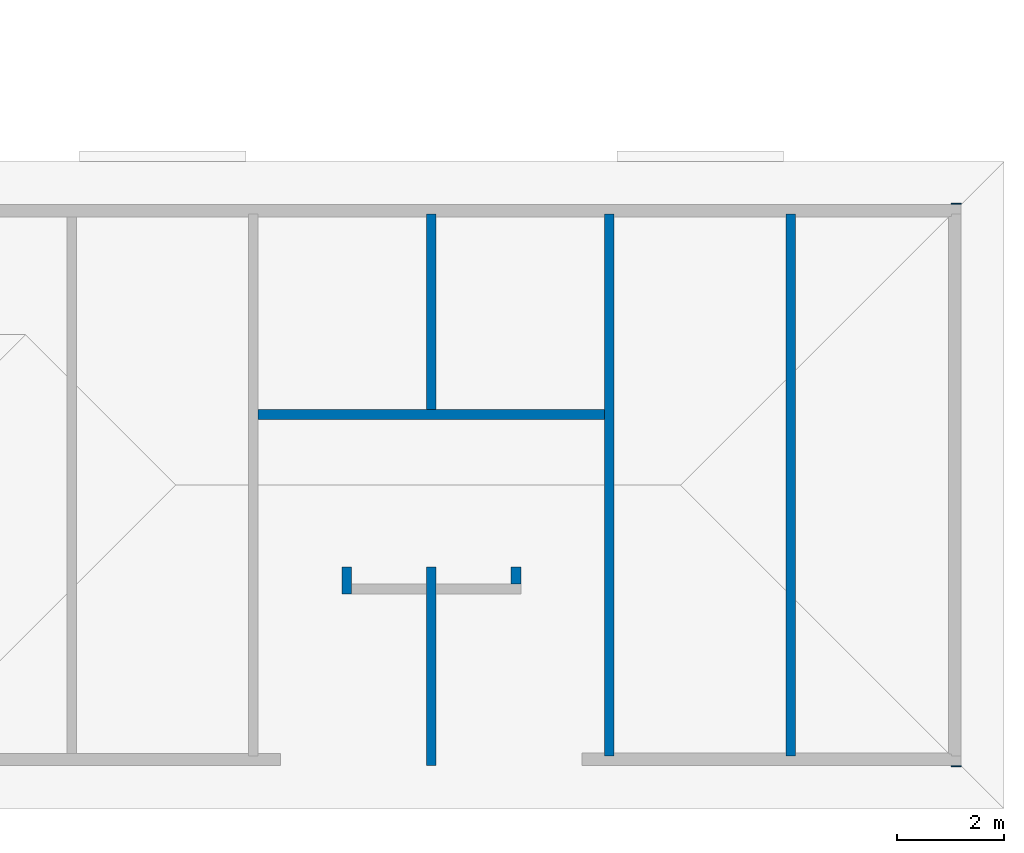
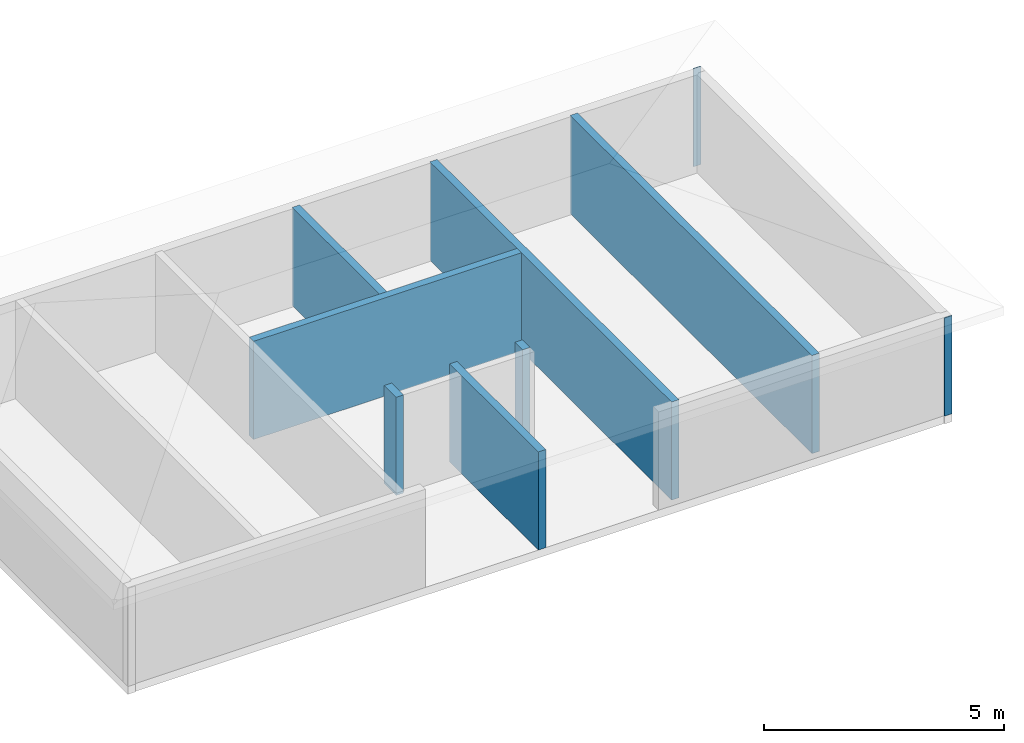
# One storey, part 5 of 10: 9 walls.
"""IFC2X3 building model written with IfcOpenShell, lengths in metres."""

from ifc_helpers import new_model, si_unit, frame, frame_2d, origin, origin_with_axes, place, context, project, spatial, rectangle, extrude, element, save


model = new_model("IFC2X3")

# Units and contexts
model_context = context("Model", 3, precision=1e-06, world=origin())
ifc_project = project(units=[si_unit("LENGTHUNIT", "METRE"), si_unit("PLANEANGLEUNIT", "RADIAN")], contexts=[model_context])

# Site, building, storey
site = spatial("IfcSite", under=ifc_project, CompositionType="ELEMENT")
building = spatial("IfcBuilding", under=site, CompositionType="ELEMENT")
storey = spatial("IfcBuildingStorey", under=building, Name="r+3", CompositionType="ELEMENT", Elevation=8.1)

# Walls
placement = place(None, origin())
wall_1_placement = place(placement, frame((53.08999993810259, -5.399922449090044, 8.1), z_axis=(0.0, 0.0, 1.0), x_axis=(0.0, 1.0, 0.0)))
element("IfcWall", 1, at=wall_1_placement, inside=storey, context=model_context, shape_type="SweptSolid", body=[
    extrude(rectangle(XDim=10.090000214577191, YDim=0.18, at=frame_2d((5.045000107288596, 0.09), x_axis=(1.0, 0.0)), kind="CURVE"), origin_with_axes(), (0.0, 0.0, 1.0), 2.5),
])
wall_2_placement = place(placement, frame((49.77499999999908, 1.050077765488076, 8.1), z_axis=(0.0, 0.0, 1.0), x_axis=(0.0, 1.0, 0.0)))
element("IfcWall", 2, at=wall_2_placement, inside=storey, context=model_context, shape_type="SweptSolid", body=[
    extrude(rectangle(XDim=3.639999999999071, YDim=0.18, at=frame_2d((1.819999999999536, 0.09), x_axis=(1.0, 0.0)), kind="CURVE"), origin_with_axes(), (0.0, 0.0, 1.0), 2.5),
])
wall_3_placement = place(placement, frame((56.469999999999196, -5.399922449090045, 8.1), z_axis=(0.0, 0.0, 1.0), x_axis=(0.0, 1.0, 0.0)))
element("IfcWall", 3, at=wall_3_placement, inside=storey, context=model_context, shape_type="SweptSolid", body=[
    extrude(rectangle(XDim=10.090000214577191, YDim=0.18, at=frame_2d((5.045000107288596, 0.09), x_axis=(1.0, 0.0)), kind="CURVE"), origin_with_axes(), (0.0, 0.0, 1.0), 2.5),
])
wall_4_placement = place(placement, frame((51.169999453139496, -1.879922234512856, 8.1), z_axis=(0.0, 0.0, 1.0), x_axis=(0.0, -1.0, 0.0)))
element("IfcWall", 4, at=wall_4_placement, inside=storey, context=model_context, shape_type="SweptSolid", body=[
    extrude(rectangle(XDim=0.32, YDim=0.18, at=frame_2d((0.16, 0.09), x_axis=(1.0, 0.0)), kind="CURVE"), origin_with_axes(), (0.0, 0.0, 1.0), 2.5),
])
wall_5_placement = place(placement, frame((59.549999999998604, -5.599999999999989, 8.1), z_axis=(0.0, 0.0, 1.0), x_axis=(-1.0, 0.0, 0.0)))
element("IfcWall", 5, at=wall_5_placement, inside=storey, context=model_context, shape_type="SweptSolid", body=[
    extrude(rectangle(XDim=0.18, YDim=0.020162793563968, at=frame_2d((0.09, 0.010081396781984), x_axis=(1.0, 0.0)), kind="CURVE"), frame((0.0, -0.020162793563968, 0.0), z_axis=(0.0, 0.0, 1.0), x_axis=(1.0, 0.0, 0.0)), (0.0, 0.0, 1.0), 2.5),
])
wall_6_placement = place(placement, frame((59.54999999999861, 4.870077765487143, 8.1), z_axis=(0.0, 0.0, 1.0), x_axis=(-1.0, 0.0, 0.0)))
element("IfcWall", 6, at=wall_6_placement, inside=storey, context=model_context, shape_type="SweptSolid", body=[
    extrude(rectangle(XDim=0.18, YDim=0.020000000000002, at=frame_2d((0.09, 0.010000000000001), x_axis=(1.0, 0.0)), kind="CURVE"), frame((0.0, -0.020000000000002, 0.0), z_axis=(0.0, 0.0, 1.0), x_axis=(1.0, 0.0, 0.0)), (0.0, 0.0, 1.0), 2.5),
])
wall_7_placement = place(placement, frame((48.199999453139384, -2.379922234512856, 8.1), z_axis=(0.0, 0.0, 1.0), x_axis=(0.0, 1.0, 0.0)))
element("IfcWall", 7, at=wall_7_placement, inside=storey, context=model_context, shape_type="SweptSolid", body=[
    extrude(rectangle(XDim=0.5, YDim=0.18, at=frame_2d((0.25, 0.09), x_axis=(1.0, 0.0)), kind="CURVE"), origin_with_axes(), (0.0, 0.0, 1.0), 2.5),
])
wall_8_placement = place(placement, frame((49.77499999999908, -5.579961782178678, 8.1), z_axis=(0.0, 0.0, 1.0), x_axis=(0.0, 1.0, 0.0)))
element("IfcWall", 8, at=wall_8_placement, inside=storey, context=model_context, shape_type="SweptSolid", body=[
    extrude(rectangle(XDim=3.700039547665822, YDim=0.18, at=frame_2d((1.850019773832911, 0.09), x_axis=(1.0, 0.0)), kind="CURVE"), origin_with_axes(), (0.0, 0.0, 1.0), 2.5),
])
wall_9_placement = place(placement, frame((52.90999947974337, 1.050077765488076, 8.1), z_axis=(0.0, 0.0, 1.0), x_axis=(-1.0, 0.0, 0.0)))
element("IfcWall", 9, at=wall_9_placement, inside=storey, context=model_context, shape_type="SweptSolid", body=[
    extrude(rectangle(XDim=6.449999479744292, YDim=0.18, at=frame_2d((3.224999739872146, 0.09), x_axis=(1.0, 0.0)), kind="CURVE"), origin_with_axes(), (0.0, 0.0, 1.0), 2.5),
])

save(model, "model.ifc")
